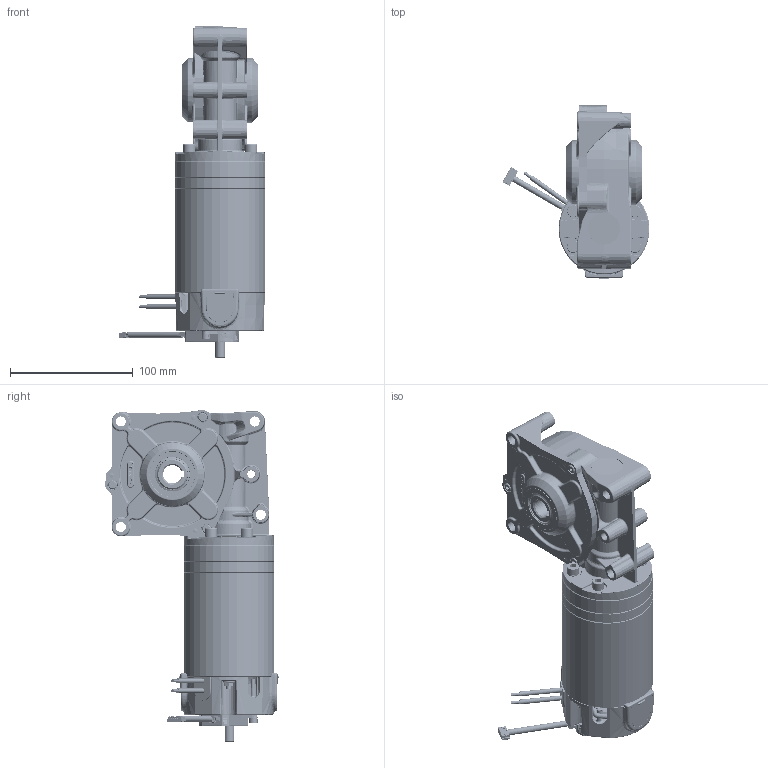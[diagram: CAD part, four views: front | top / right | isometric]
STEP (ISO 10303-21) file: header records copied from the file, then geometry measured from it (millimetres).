
FILE_DESCRIPTION (( 'STEP AP214' ), '1' );
FILE_NAME ('BRx70-40-GB12 - Encoder (render model).STEP', '2024-01-10T12:47:52', ( '' ), ( '' ), 'SwSTEP 2.0', 'SolidWorks 2023', '' );
FILE_SCHEMA (( 'AUTOMOTIVE_DESIGN' ));
Length unit declared in the file: millimetre
Products named in the file (1): BRx70-40-GB12 - Encoder (render model)
Bounding box: 119.69 x 141.47 x 270.55 mm (x, y, z)
Surface area: 272305 mm2 (no closed solid volume)
Topology: 0 solids, 70 shells, 6812 faces, 17222 edges, 10584 vertices
Faces by surface type: plane 2372, cylinder 2005, bspline 1111, cone 687, torus 537, sphere 100
Entity records: 328196 total; most frequent: CARTESIAN_POINT 105797, ORIENTED_EDGE 34070, DIRECTION 25907, EDGE_CURVE 17037, VERTEX_POINT 10584, AXIS2_PLACEMENT_3D 10547, EDGE_LOOP 7341, UNCERTAINTY_MEASURE_WITH_UNIT 6882
